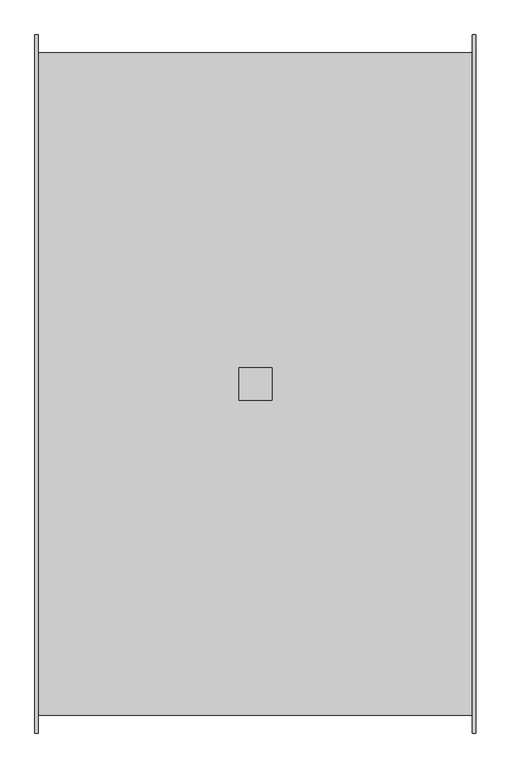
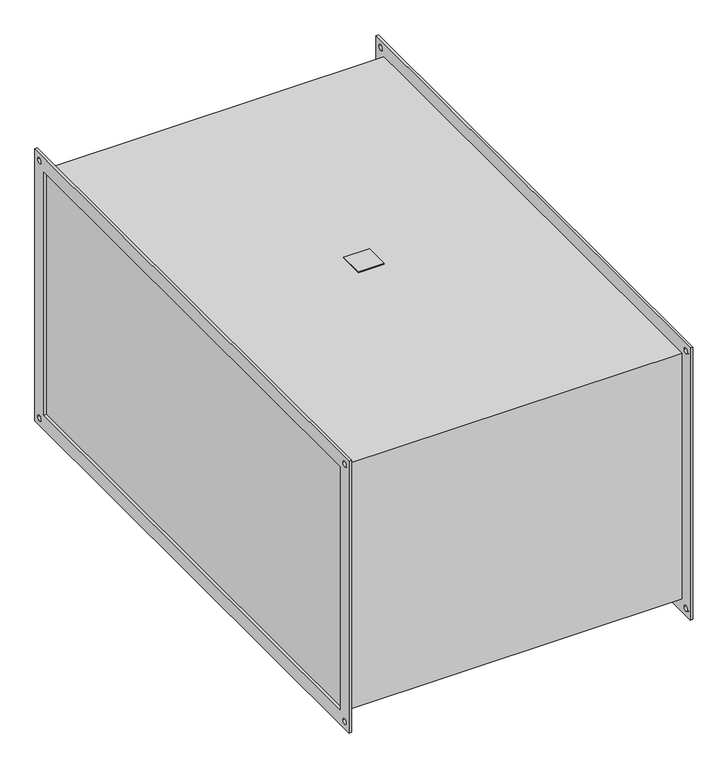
"""IFC4 building model written with IfcOpenShell, lengths in millimetres: proxy geometry, KORF_Вентилятор_WNP : WNP 100-50/45R.4D."""

from ifc_helpers import new_model, si_unit, point, frame, frame_2d, origin, place, context, project, spatial, polyline, circle_curve, trimmed, segment, composite_curve, outline, extrude, source, transform, mapped, element, save


def mechanical_equipment_70065276(model_context):
    return source(origin(), model_context, "Body", "SweptSolid", [
        extrude(outline(polyline([(310.0, 25.0), (360.0, 25.0), (360.0, -25.0), (310.0, -25.0), (310.0, 25.0)])), frame((0.0, 0.0, 253.0), z_axis=(0.0, 0.0, 1.0), x_axis=(1.0, 0.0, 0.0)), (0.0, 0.0, 1.0), 2.0),
        extrude(outline(polyline([(530.0, 280.0), (530.0, -280.0), (-530.0, -280.0), (-530.0, 280.0), (530.0, 280.0)]), holes=[polyline([(500.0, 250.0), (-500.0, 250.0), (-500.0, -250.0), (500.0, -250.0), (500.0, 250.0)]), composite_curve([segment(trimmed(circle_curve(frame_2d((-515.0, 265.0)), 5.5), [point((-509.5, 265.0))], [point((-520.5, 265.0))], True, "CARTESIAN"), True, "CONTINUOUS"), segment(trimmed(circle_curve(frame_2d((-515.0, 265.0)), 5.5), [point((-520.5, 265.0))], [point((-509.5, 265.0))], True, "CARTESIAN"), True, "CONTINUOUS")], self_intersect=False), composite_curve([segment(trimmed(circle_curve(frame_2d((515.0, 265.0)), 5.5), [point((520.5, 265.0))], [point((509.5, 265.0))], True, "CARTESIAN"), True, "CONTINUOUS"), segment(trimmed(circle_curve(frame_2d((515.0, 265.0)), 5.5), [point((509.5, 265.0))], [point((520.5, 265.0))], True, "CARTESIAN"), True, "CONTINUOUS")], self_intersect=False), composite_curve([segment(trimmed(circle_curve(frame_2d((515.0, -265.0)), 5.5), [point((520.5, -265.0))], [point((509.5, -265.0))], True, "CARTESIAN"), True, "CONTINUOUS"), segment(trimmed(circle_curve(frame_2d((515.0, -265.0)), 5.5), [point((509.5, -265.0))], [point((520.5, -265.0))], True, "CARTESIAN"), True, "CONTINUOUS")], self_intersect=False), composite_curve([segment(trimmed(circle_curve(frame_2d((-515.0, -265.0)), 5.5), [point((-509.5, -265.0))], [point((-520.5, -265.0))], True, "CARTESIAN"), True, "CONTINUOUS"), segment(trimmed(circle_curve(frame_2d((-515.0, -265.0)), 5.5), [point((-520.5, -265.0))], [point((-509.5, -265.0))], True, "CARTESIAN"), True, "CONTINUOUS")], self_intersect=False)]), frame((665.0, 0.0, 0.0), z_axis=(1.0, 0.0, 0.0), x_axis=(0.0, 1.0, 0.0)), (0.0, 0.0, 1.0), 5.0),
        extrude(outline(polyline([(530.0, 280.0), (530.0, -280.0), (-530.0, -280.0), (-530.0, 280.0), (530.0, 280.0)]), holes=[polyline([(500.0, 250.0), (-500.0, 250.0), (-500.0, -250.0), (500.0, -250.0), (500.0, 250.0)]), composite_curve([segment(trimmed(circle_curve(frame_2d((-515.0, 265.0)), 5.5), [point((-509.5, 265.0))], [point((-520.5, 265.0))], True, "CARTESIAN"), True, "CONTINUOUS"), segment(trimmed(circle_curve(frame_2d((-515.0, 265.0)), 5.5), [point((-520.5, 265.0))], [point((-509.5, 265.0))], True, "CARTESIAN"), True, "CONTINUOUS")], self_intersect=False), composite_curve([segment(trimmed(circle_curve(frame_2d((515.0, 265.0)), 5.5), [point((520.5, 265.0))], [point((509.5, 265.0))], True, "CARTESIAN"), True, "CONTINUOUS"), segment(trimmed(circle_curve(frame_2d((515.0, 265.0)), 5.5), [point((509.5, 265.0))], [point((520.5, 265.0))], True, "CARTESIAN"), True, "CONTINUOUS")], self_intersect=False), composite_curve([segment(trimmed(circle_curve(frame_2d((515.0, -265.0)), 5.5), [point((520.5, -265.0))], [point((509.5, -265.0))], True, "CARTESIAN"), True, "CONTINUOUS"), segment(trimmed(circle_curve(frame_2d((515.0, -265.0)), 5.5), [point((509.5, -265.0))], [point((520.5, -265.0))], True, "CARTESIAN"), True, "CONTINUOUS")], self_intersect=False), composite_curve([segment(trimmed(circle_curve(frame_2d((-515.0, -265.0)), 5.5), [point((-509.5, -265.0))], [point((-520.5, -265.0))], True, "CARTESIAN"), True, "CONTINUOUS"), segment(trimmed(circle_curve(frame_2d((-515.0, -265.0)), 5.5), [point((-520.5, -265.0))], [point((-509.5, -265.0))], True, "CARTESIAN"), True, "CONTINUOUS")], self_intersect=False)]), frame((0.0, 0.0, 0.0), z_axis=(1.0, 0.0, 0.0), x_axis=(0.0, 1.0, 0.0)), (0.0, 0.0, 1.0), 5.0),
        extrude(outline(polyline([(665.0, -503.0), (5.0, -503.0), (5.0, 503.0), (665.0, 503.0), (665.0, -503.0)])), frame((0.0, 0.0, -253.0), z_axis=(0.0, 0.0, 1.0), x_axis=(1.0, 0.0, 0.0)), (0.0, 0.0, 1.0), 506.0),
    ])


if __name__ == "__main__":
    model = new_model("IFC4")
    model_context = context("Model", 3, world=origin())
    ifc_project = project(units=[si_unit("LENGTHUNIT", "METRE", prefix="MILLI")], contexts=[model_context])
    site = spatial("IfcSite", under=ifc_project)
    building = spatial("IfcBuilding", under=site)
    placement = place(None, origin())
    mechanical_equipment_shape = mechanical_equipment_70065276(model_context)
    element("IfcBuildingElementProxy", 1, Name="KORF_Вентилятор_WNP : WNP 100-50/45R.4D", ObjectType="KORF_Вентилятор_WNP : WNP 100-50/45R.4D", at=placement, inside=building, context=model_context, shape_type="MappedRepresentation", body=[
        mapped(mechanical_equipment_shape, transform((0.0, 0.0, 0.0), x_axis=(1.0, 0.0, 0.0), y_axis=(0.0, 1.0, 0.0), z_axis=(0.0, 0.0, 1.0))),
    ])
    save(model, "model.ifc")
